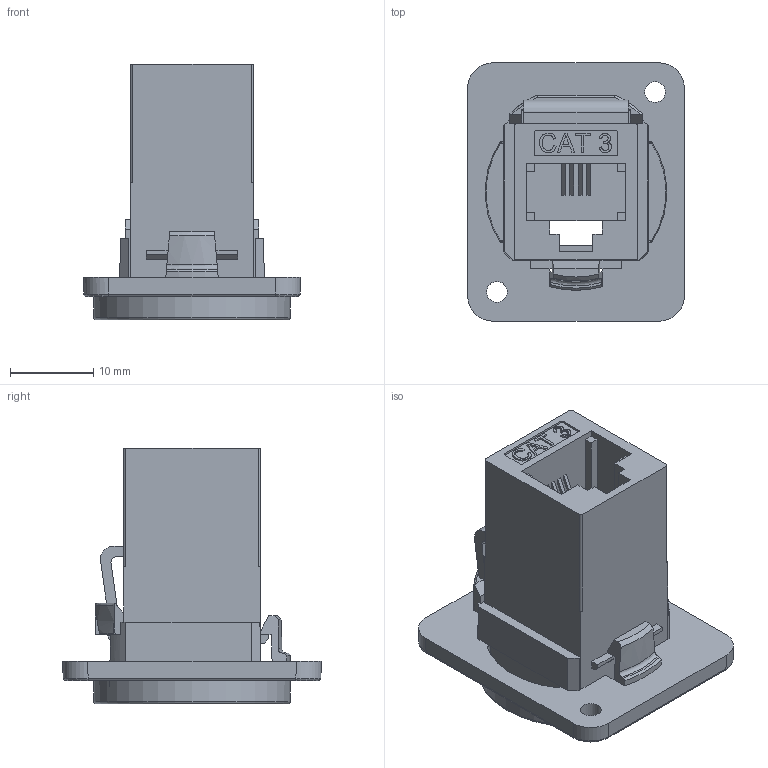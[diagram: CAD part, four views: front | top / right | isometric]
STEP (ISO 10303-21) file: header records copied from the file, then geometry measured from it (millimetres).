
FILE_DESCRIPTION(/* description */ (''),/* implementation_level */ '2;1');
FILE_NAME(/* name */ 'W:\DPJ915 - Keystone RJ45 etc\CAD\CAD for Customers\RJ11\CP30223X plain hole.stp',/* time_stamp */ '2019-02-01T14:25:10+00:00',/* author */ ('tottley'),/* organization */ (''),/* preprocessor_version */ 'ST-DEVELOPER v16.1',/* originating_system */ 'Autodesk Inventor 2016',/* authorisation */ '');
FILE_SCHEMA (('AUTOMOTIVE_DESIGN { 1 0 10303 214 3 1 1 }'));
Length unit declared in the file: millimetre
Products named in the file (1): FT RJ11 plain hole
Bounding box: 26 x 31 x 30.7 mm (x, y, z)
Volume: 6921.8 mm3; surface area: 6637.1 mm2
Topology: 1 solids, 3 shells, 506 faces, 1426 edges, 941 vertices
Faces by surface type: plane 341, bspline 105, cylinder 42, cone 10, torus 8
Full cylindrical faces by diameter (mm): 2.5 x2
Entity records: 17458 total; most frequent: CARTESIAN_POINT 4864, ORIENTED_EDGE 2844, DIRECTION 2130, EDGE_CURVE 1422, LINE 1054, VECTOR 1054, VERTEX_POINT 941, EDGE_LOOP 557
